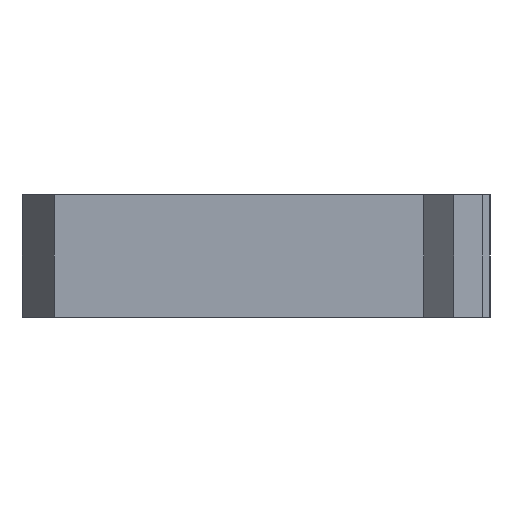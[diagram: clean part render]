
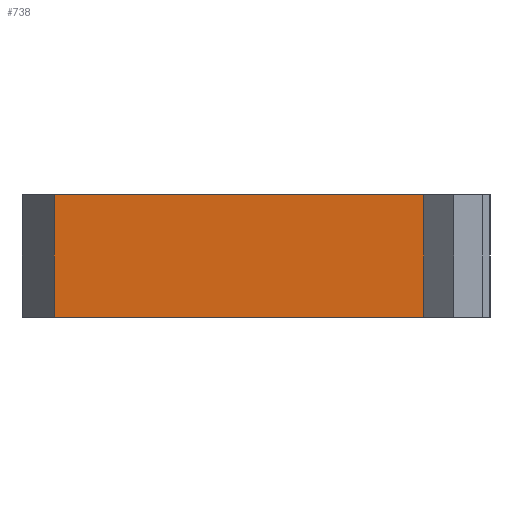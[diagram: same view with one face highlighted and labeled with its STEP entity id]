
A CAD part, front view. The second image highlights one B-rep face of the part: STEP entity #738.
In plain terms, the highlighted planar face has unit normal (-0.069, -0.998, 0).
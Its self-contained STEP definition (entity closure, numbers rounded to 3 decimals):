
#85 = LINE ( 'NONE', #645, #197 ) ;
#96 = EDGE_CURVE ( 'NONE', #140, #687, #399, .T. ) ;
#140 = VERTEX_POINT ( 'NONE', #273 ) ;
#172 = EDGE_CURVE ( 'NONE', #784, #687, #85, .T. ) ;
#173 = LINE ( 'NONE', #629, #268 ) ;
#197 = VECTOR ( 'NONE', #950, 1000. ) ;
#235 = LINE ( 'NONE', #806, #464 ) ;
#268 = VECTOR ( 'NONE', #707, 1000. ) ;
#273 = CARTESIAN_POINT ( 'NONE',  ( 83.068, 176.33, 50. ) ) ;
#338 = AXIS2_PLACEMENT_3D ( 'NONE', #644, #646, #868 ) ;
#342 = VERTEX_POINT ( 'NONE', #517 ) ;
#344 = CARTESIAN_POINT ( 'NONE',  ( 158.463, 171.13, 25. ) ) ;
#385 = EDGE_CURVE ( 'NONE', #342, #140, #235, .T. ) ;
#393 = DIRECTION ( 'NONE',  ( 0., 0., -1. ) ) ;
#399 = LINE ( 'NONE', #834, #837 ) ;
#444 = CARTESIAN_POINT ( 'NONE',  ( 83.068, 176.33, 25. ) ) ;
#464 = VECTOR ( 'NONE', #957, 1000. ) ;
#481 = EDGE_CURVE ( 'NONE', #784, #342, #173, .T. ) ;
#517 = CARTESIAN_POINT ( 'NONE',  ( 158.463, 171.13, 50. ) ) ;
#520 = EDGE_LOOP ( 'NONE', ( #527, #575, #949, #754 ) ) ;
#527 = ORIENTED_EDGE ( 'NONE', *, *, #172, .F. ) ;
#575 = ORIENTED_EDGE ( 'NONE', *, *, #481, .T. ) ;
#584 = PLANE ( 'NONE',  #338 ) ;
#629 = CARTESIAN_POINT ( 'NONE',  ( 158.463, 171.13, 50. ) ) ;
#644 = CARTESIAN_POINT ( 'NONE',  ( 164.553, 170.71, 25. ) ) ;
#645 = CARTESIAN_POINT ( 'NONE',  ( 164.553, 170.71, 25. ) ) ;
#646 = DIRECTION ( 'NONE',  ( 0.069, 0.998, 0. ) ) ;
#670 = FACE_OUTER_BOUND ( 'NONE', #520, .T. ) ;
#687 = VERTEX_POINT ( 'NONE', #444 ) ;
#707 = DIRECTION ( 'NONE',  ( 0., 0., 1. ) ) ;
#738 = ADVANCED_FACE ( 'NONE', ( #670 ), #584, .F. ) ;
#754 = ORIENTED_EDGE ( 'NONE', *, *, #96, .T. ) ;
#784 = VERTEX_POINT ( 'NONE', #344 ) ;
#806 = CARTESIAN_POINT ( 'NONE',  ( 164.553, 170.71, 50. ) ) ;
#834 = CARTESIAN_POINT ( 'NONE',  ( 83.068, 176.33, 25. ) ) ;
#837 = VECTOR ( 'NONE', #393, 1000. ) ;
#868 = DIRECTION ( 'NONE',  ( -0.998, 0.069, 0. ) ) ;
#949 = ORIENTED_EDGE ( 'NONE', *, *, #385, .T. ) ;
#950 = DIRECTION ( 'NONE',  ( -0.998, 0.069, 0. ) ) ;
#957 = DIRECTION ( 'NONE',  ( -0.998, 0.069, 0. ) ) ;
